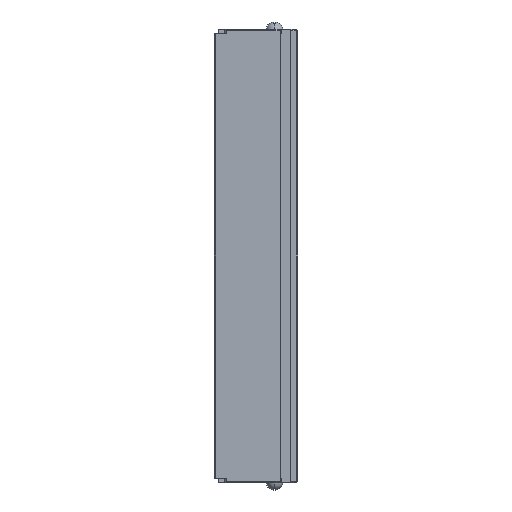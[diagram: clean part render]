
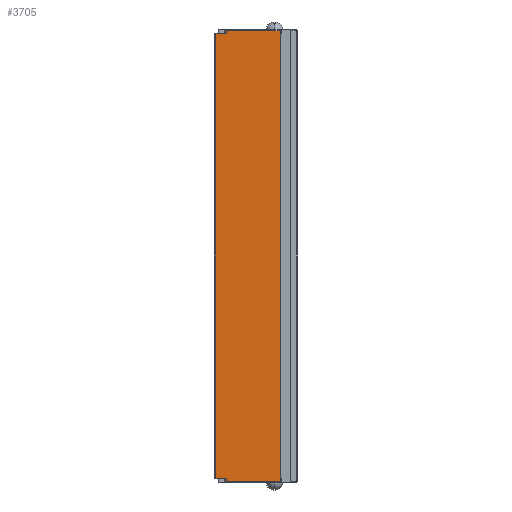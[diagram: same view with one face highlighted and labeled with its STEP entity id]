
A CAD part, left-side view. The second image highlights one B-rep face of the part: STEP entity #3705.
In plain terms, the highlighted planar face has unit normal (-1, 0, 0).
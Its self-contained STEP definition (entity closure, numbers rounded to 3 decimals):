
#189=DIRECTION('',(0.,1.,0.));
#190=VECTOR('',#189,3.3);
#191=CARTESIAN_POINT('',(-19.,13.2,72.));
#192=LINE('',#191,#190);
#389=DIRECTION('',(0.,0.,-1.));
#390=VECTOR('',#389,1.);
#391=CARTESIAN_POINT('',(-19.,13.2,-72.));
#392=LINE('',#391,#390);
#401=DIRECTION('',(0.,1.,0.));
#402=VECTOR('',#401,3.3);
#403=CARTESIAN_POINT('',(-19.,13.2,-72.));
#404=LINE('',#403,#402);
#405=DIRECTION('',(0.,0.,1.));
#406=VECTOR('',#405,1.);
#407=CARTESIAN_POINT('',(-19.,13.2,72.));
#408=LINE('',#407,#406);
#413=DIRECTION('',(0.,0.,1.));
#414=VECTOR('',#413,146.);
#415=CARTESIAN_POINT('',(-19.,-4.3,-73.));
#416=LINE('',#415,#414);
#961=DIRECTION('',(0.,-1.,0.));
#962=VECTOR('',#961,17.5);
#963=CARTESIAN_POINT('',(-19.,13.2,-73.));
#964=LINE('',#963,#962);
#2117=DIRECTION('',(0.,1.,0.));
#2118=VECTOR('',#2117,17.5);
#2119=CARTESIAN_POINT('',(-19.,-4.3,73.));
#2120=LINE('',#2119,#2118);
#2321=DIRECTION('',(0.,0.,-1.));
#2322=VECTOR('',#2321,144.);
#2323=CARTESIAN_POINT('',(-19.,16.5,72.));
#2324=LINE('',#2323,#2322);
#2357=CARTESIAN_POINT('',(-19.,16.5,-72.));
#2358=VERTEX_POINT('',#2357);
#2367=CARTESIAN_POINT('',(-19.,16.5,72.));
#2368=VERTEX_POINT('',#2367);
#2429=CARTESIAN_POINT('',(-19.,13.2,73.));
#2430=VERTEX_POINT('',#2429);
#2635=CARTESIAN_POINT('',(-19.,-4.3,73.));
#2637=VERTEX_POINT('',#2635);
#2717=CARTESIAN_POINT('',(-19.,13.2,72.));
#2719=VERTEX_POINT('',#2717);
#2775=CARTESIAN_POINT('',(-19.,13.2,-73.));
#2777=VERTEX_POINT('',#2775);
#2781=CARTESIAN_POINT('',(-19.,-4.3,-73.));
#2782=VERTEX_POINT('',#2781);
#3011=CARTESIAN_POINT('',(-19.,13.2,-72.));
#3012=VERTEX_POINT('',#3011);
#3686=CARTESIAN_POINT('',(-19.,16.5,-72.));
#3687=DIRECTION('',(-1.,0.,0.));
#3688=DIRECTION('',(0.,-1.,0.));
#3689=AXIS2_PLACEMENT_3D('',#3686,#3687,#3688);
#3690=PLANE('',#3689);
#3692=ORIENTED_EDGE('',*,*,#3691,.F.);
#3694=ORIENTED_EDGE('',*,*,#3693,.F.);
#3695=ORIENTED_EDGE('',*,*,#3677,.F.);
#3696=ORIENTED_EDGE('',*,*,#3126,.T.);
#3698=ORIENTED_EDGE('',*,*,#3697,.F.);
#3699=ORIENTED_EDGE('',*,*,#3356,.F.);
#3700=ORIENTED_EDGE('',*,*,#3522,.T.);
#3702=ORIENTED_EDGE('',*,*,#3701,.F.);
#3703=EDGE_LOOP('',(#3692,#3694,#3695,#3696,#3698,#3699,#3700,#3702));
#3704=FACE_OUTER_BOUND('',#3703,.F.);
#3126=EDGE_CURVE('',#3012,#2358,#404,.T.);
#3356=EDGE_CURVE('',#2719,#2368,#192,.T.);
#3522=EDGE_CURVE('',#2719,#2430,#408,.T.);
#3677=EDGE_CURVE('',#3012,#2777,#392,.T.);
#3691=EDGE_CURVE('',#2782,#2637,#416,.T.);
#3693=EDGE_CURVE('',#2777,#2782,#964,.T.);
#3697=EDGE_CURVE('',#2368,#2358,#2324,.T.);
#3701=EDGE_CURVE('',#2637,#2430,#2120,.T.);
#3705=ADVANCED_FACE('',(#3704),#3690,.T.);
